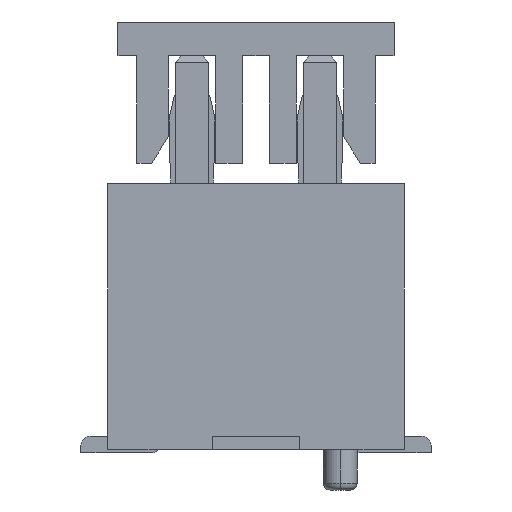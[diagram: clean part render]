
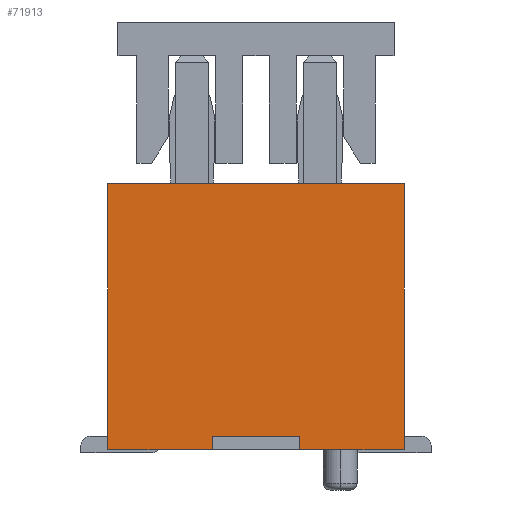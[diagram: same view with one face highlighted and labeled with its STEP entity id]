
A CAD part, left-side view. The second image highlights one B-rep face of the part: STEP entity #71913.
In plain terms, the highlighted planar face has unit normal (-1, 0, 0).
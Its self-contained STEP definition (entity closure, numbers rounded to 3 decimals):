
#149 = LINE ( 'NONE', #39516, #69490 ) ;
#237 = DIRECTION ( 'NONE',  ( 0., 0., 1. ) ) ;
#2639 = CARTESIAN_POINT ( 'NONE',  ( -4.95, 2.2, 0. ) ) ;
#3482 = CARTESIAN_POINT ( 'NONE',  ( -4.95, -0.65, 0.2 ) ) ;
#5222 = ORIENTED_EDGE ( 'NONE', *, *, #41384, .F. ) ;
#6330 = CARTESIAN_POINT ( 'NONE',  ( -4.95, 0., 0. ) ) ;
#8024 = DIRECTION ( 'NONE',  ( 0., 0., 1. ) ) ;
#8623 = CARTESIAN_POINT ( 'NONE',  ( -4.95, 0.65, 0.1 ) ) ;
#9227 = LINE ( 'NONE', #41246, #29516 ) ;
#13284 = LINE ( 'NONE', #70494, #26418 ) ;
#17876 = ORIENTED_EDGE ( 'NONE', *, *, #61139, .F. ) ;
#18638 = VECTOR ( 'NONE', #102652, 1000. ) ;
#22982 = VERTEX_POINT ( 'NONE', #24241 ) ;
#24241 = CARTESIAN_POINT ( 'NONE',  ( -4.95, 2.2, 3.95 ) ) ;
#25268 = EDGE_CURVE ( 'NONE', #37607, #41340, #13284, .T. ) ;
#26418 = VECTOR ( 'NONE', #54721, 1000. ) ;
#28857 = VERTEX_POINT ( 'NONE', #34578 ) ;
#28919 = VERTEX_POINT ( 'NONE', #35106 ) ;
#29516 = VECTOR ( 'NONE', #32860, 1000. ) ;
#30456 = DIRECTION ( 'NONE',  ( 0., -1., 0. ) ) ;
#32710 = EDGE_CURVE ( 'NONE', #28857, #28919, #54377, .T. ) ;
#32860 = DIRECTION ( 'NONE',  ( 0., 0., 1. ) ) ;
#34036 = EDGE_CURVE ( 'NONE', #41340, #22982, #9227, .T. ) ;
#34124 = LINE ( 'NONE', #88219, #91571 ) ;
#34578 = CARTESIAN_POINT ( 'NONE',  ( -4.95, -2.2, 0. ) ) ;
#35106 = CARTESIAN_POINT ( 'NONE',  ( -4.95, -0.65, 0. ) ) ;
#37607 = VERTEX_POINT ( 'NONE', #97909 ) ;
#39516 = CARTESIAN_POINT ( 'NONE',  ( -4.95, -0.65, 0.1 ) ) ;
#40638 = LINE ( 'NONE', #8623, #80433 ) ;
#41246 = CARTESIAN_POINT ( 'NONE',  ( -4.95, 2.2, 1.975 ) ) ;
#41340 = VERTEX_POINT ( 'NONE', #2639 ) ;
#41384 = EDGE_CURVE ( 'NONE', #81904, #28857, #34124, .T. ) ;
#46750 = FACE_OUTER_BOUND ( 'NONE', #87764, .T. ) ;
#51599 = EDGE_CURVE ( 'NONE', #22982, #81904, #68802, .T. ) ;
#53327 = ORIENTED_EDGE ( 'NONE', *, *, #25268, .F. ) ;
#54343 = LINE ( 'NONE', #86340, #95029 ) ;
#54377 = LINE ( 'NONE', #86380, #18638 ) ;
#54721 = DIRECTION ( 'NONE',  ( 0., 1., 0. ) ) ;
#61081 = ORIENTED_EDGE ( 'NONE', *, *, #34036, .F. ) ;
#61139 = EDGE_CURVE ( 'NONE', #72657, #87571, #54343, .T. ) ;
#61958 = CARTESIAN_POINT ( 'NONE',  ( -4.95, 0., 3.95 ) ) ;
#63002 = DIRECTION ( 'NONE',  ( 0., 1., 0. ) ) ;
#63273 = DIRECTION ( 'NONE',  ( 0., 1., 0. ) ) ;
#67196 = ORIENTED_EDGE ( 'NONE', *, *, #72713, .F. ) ;
#68802 = LINE ( 'NONE', #61958, #88073 ) ;
#69490 = VECTOR ( 'NONE', #8024, 1000. ) ;
#70494 = CARTESIAN_POINT ( 'NONE',  ( -4.95, 2.1, 0. ) ) ;
#70870 = DIRECTION ( 'NONE',  ( 1., 0., 0. ) ) ;
#71913 = ADVANCED_FACE ( 'NONE', ( #46750 ), #102362, .F. ) ;
#72418 = CARTESIAN_POINT ( 'NONE',  ( -4.95, 0.65, 0.2 ) ) ;
#72657 = VERTEX_POINT ( 'NONE', #3482 ) ;
#72713 = EDGE_CURVE ( 'NONE', #28919, #72657, #149, .T. ) ;
#74358 = ORIENTED_EDGE ( 'NONE', *, *, #51599, .F. ) ;
#75978 = AXIS2_PLACEMENT_3D ( 'NONE', #6330, #70870, #63002 ) ;
#80433 = VECTOR ( 'NONE', #237, 1000. ) ;
#81569 = ORIENTED_EDGE ( 'NONE', *, *, #32710, .F. ) ;
#81904 = VERTEX_POINT ( 'NONE', #93127 ) ;
#86340 = CARTESIAN_POINT ( 'NONE',  ( -4.95, 0., 0.2 ) ) ;
#86380 = CARTESIAN_POINT ( 'NONE',  ( -4.95, -1.325, 0. ) ) ;
#87571 = VERTEX_POINT ( 'NONE', #72418 ) ;
#87764 = EDGE_LOOP ( 'NONE', ( #53327, #99269, #17876, #67196, #81569, #5222, #74358, #61081 ) ) ;
#88073 = VECTOR ( 'NONE', #30456, 1000. ) ;
#88219 = CARTESIAN_POINT ( 'NONE',  ( -4.95, -2.2, 1.975 ) ) ;
#91571 = VECTOR ( 'NONE', #97639, 1000. ) ;
#93127 = CARTESIAN_POINT ( 'NONE',  ( -4.95, -2.2, 3.95 ) ) ;
#93251 = EDGE_CURVE ( 'NONE', #37607, #87571, #40638, .T. ) ;
#95029 = VECTOR ( 'NONE', #63273, 1000. ) ;
#97639 = DIRECTION ( 'NONE',  ( 0., 0., -1. ) ) ;
#97909 = CARTESIAN_POINT ( 'NONE',  ( -4.95, 0.65, 0. ) ) ;
#99269 = ORIENTED_EDGE ( 'NONE', *, *, #93251, .T. ) ;
#102362 = PLANE ( 'NONE',  #75978 ) ;
#102652 = DIRECTION ( 'NONE',  ( 0., 1., 0. ) ) ;
